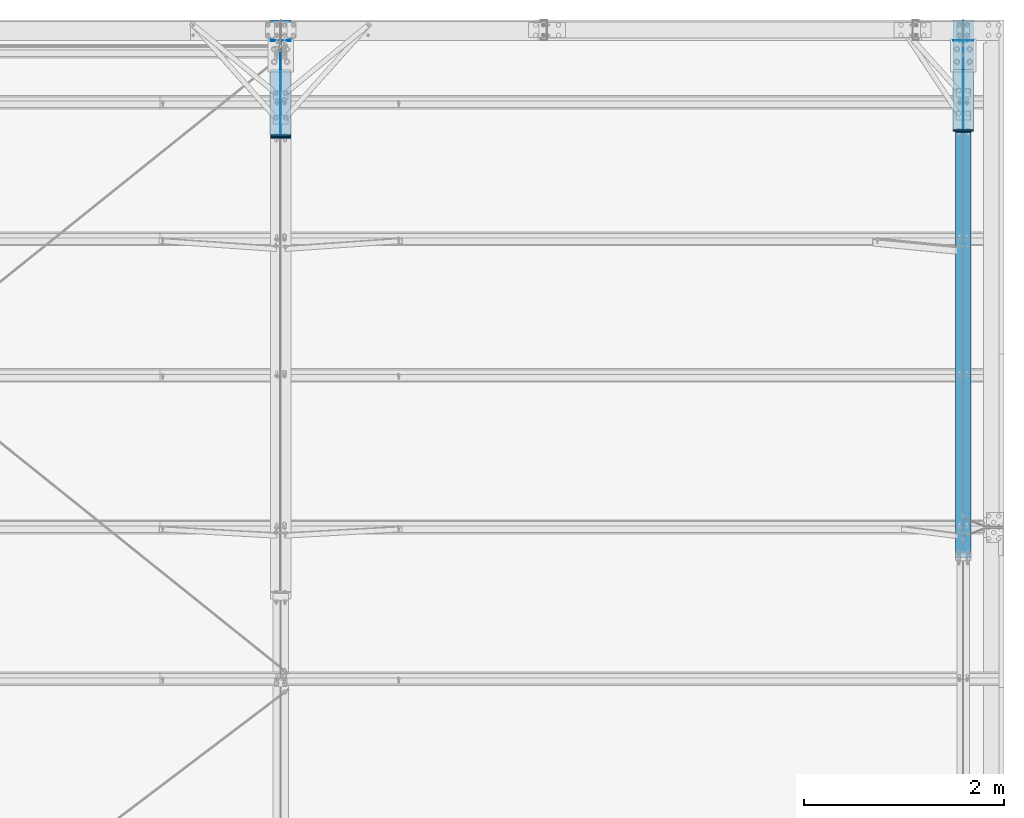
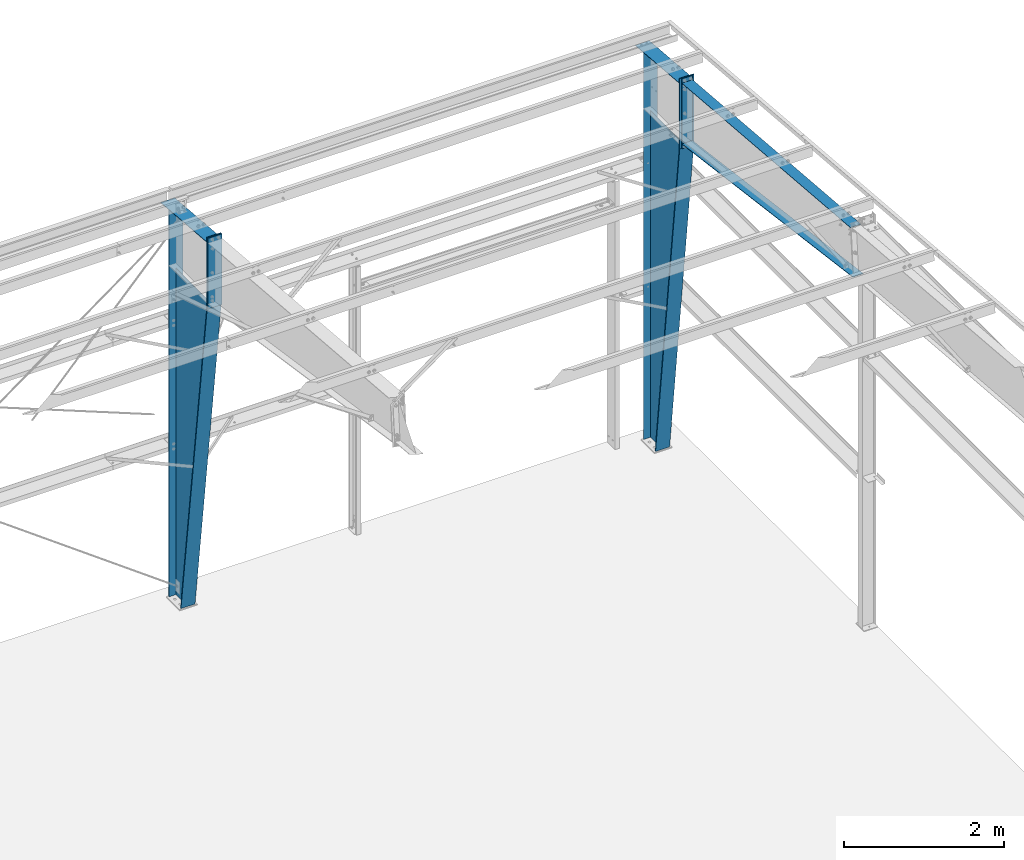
# One storey, part 60 of 185: 14 discrete accessories, 4 elements without a shape of their own.
"""IFC2X3 building model written with IfcOpenShell, lengths in millimetres."""

from ifc_helpers import new_model, si_unit, frame, origin_with_axes, origin_2d_with_axis, place, context, subcontext, project, spatial, rectangle, extrude, clip, halfspace, material, type_object, element, aggregate, save


model = new_model("IFC2X3")

# Units and contexts
model_context = context("Model", 3, precision=1e-05, world=origin_with_axes())
body_context = subcontext(model_context, "Body", "Model", "MODEL_VIEW")
ifc_project = project(units=[si_unit("LENGTHUNIT", "METRE", prefix="MILLI"), si_unit("AREAUNIT", "SQUARE_METRE"), si_unit("VOLUMEUNIT", "CUBIC_METRE"), si_unit("MASSUNIT", "GRAM", prefix="KILO"), si_unit("TIMEUNIT", "SECOND"), si_unit("PLANEANGLEUNIT", "RADIAN"), si_unit("SOLIDANGLEUNIT", "STERADIAN"), si_unit("THERMODYNAMICTEMPERATUREUNIT", "DEGREE_CELSIUS"), si_unit("LUMINOUSINTENSITYUNIT", "LUMEN")], contexts=[model_context])

# Site, building, storey
site_placement = place(None, origin_with_axes())
site = spatial("IfcSite", under=ifc_project, at=site_placement, Name="Undefined", CompositionType="ELEMENT")
building_placement = place(site_placement, origin_with_axes())
building = spatial("IfcBuilding", under=site, at=building_placement, Name="Undefined", CompositionType="ELEMENT")
storey_placement = place(building_placement, origin_with_axes())
storey = spatial("IfcBuildingStorey", under=building, at=storey_placement, Name="Undefined", CompositionType="ELEMENT", Elevation=0.0)

# Assembly, discrete accessory
assembly_1_placement = place(storey_placement, origin_with_axes())
assembly_1 = element("IfcElementAssembly", 1, at=assembly_1_placement, inside=storey, Name="Steel Assembly", AssemblyPlace="NOTDEFINED", PredefinedType="RIGID_FRAME")
ifc_material = material(Name="STEEL/55")
discrete_accessory_type_1 = type_object("IfcDiscreteAccessoryType", Name="Outside Flange")
discrete_accessory_1_placement = place(assembly_1_placement, frame((44551.6, 26679.882329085, 6332.58612997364), z_axis=(-1.0, 0.0, 0.0), x_axis=(0.0, 0.996545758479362, -0.0830454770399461)))
discrete_accessory_1 = element("IfcDiscreteAccessory", 2, at=discrete_accessory_1_placement, type_object=discrete_accessory_type_1, material=ifc_material, Name="Outside Flange", ObjectType="FL1/4\"X6\"", context=body_context, shape_type="SweptSolid", body=[
    extrude(rectangle(XDim=6.35, YDim=152.4, at=origin_2d_with_axis()), frame((4214.4617713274, 0.0, 0.0), z_axis=(-1.0, 0.0, 0.0), x_axis=(0.0, -1.0, 0.0)), (0.0, 0.0, 1.0), 4214.5),
])

assembly_2_placement = place(storey_placement, origin_with_axes())
assembly_2 = element("IfcElementAssembly", 3, at=assembly_2_placement, inside=storey, Name="Steel Assembly", AssemblyPlace="NOTDEFINED", PredefinedType="RIGID_FRAME")
discrete_accessory_2_placement = place(assembly_2_placement, frame((44551.6, 31797.625, 15.8749999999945), z_axis=(0.0, 0.0, 1.0), x_axis=(1.0, 0.0, 0.0)))
discrete_accessory_2 = element("IfcDiscreteAccessory", 4, at=discrete_accessory_2_placement, type_object=discrete_accessory_type_1, material=ifc_material, Name="Outside Flange", ObjectType="FL1/4\"X8\"", context=body_context, shape_type="SweptSolid", body=[
    extrude(rectangle(XDim=6.35, YDim=203.2, at=origin_2d_with_axis()), frame((0.0, 0.0, 5886.78198800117), z_axis=(0.0, 0.0, -1.0), x_axis=(0.0, 1.0, 0.0)), (0.0, 0.0, 1.0), 5886.8),
])

assembly_3_placement = place(storey_placement, origin_with_axes())
assembly_3 = element("IfcElementAssembly", 5, at=assembly_3_placement, inside=storey, Name="Steel Assembly", AssemblyPlace="NOTDEFINED", PredefinedType="RIGID_FRAME")
discrete_accessory_3_placement = place(assembly_3_placement, frame((37719.0, 31796.863, 15.8750000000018), z_axis=(0.0, 0.0, 1.0), x_axis=(1.0, 0.0, 0.0)))
discrete_accessory_3 = element("IfcDiscreteAccessory", 6, at=discrete_accessory_3_placement, type_object=discrete_accessory_type_1, material=ifc_material, Name="Outside Flange", ObjectType="FL5/16\"X8\"", context=body_context, shape_type="SweptSolid", body=[
    extrude(rectangle(XDim=7.874, YDim=203.2, at=origin_2d_with_axis()), frame((0.0, 0.0, 5885.17624136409), z_axis=(0.0, 0.0, -1.0), x_axis=(0.0, 1.0, 0.0)), (0.0, 0.0, 1.0), 5885.2),
])

# Discrete accessory
discrete_accessory_type_2 = type_object("IfcDiscreteAccessoryType", Name="Inside Flange")
discrete_accessory_4_placement = place(assembly_1_placement, frame((44551.6000000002, 30879.5387973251, 5058.51776228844), z_axis=(1.0, 0.0, 0.0), x_axis=(0.0, -0.99153420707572, 0.129845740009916)))
discrete_accessory_4 = element("IfcDiscreteAccessory", 7, at=discrete_accessory_4_placement, type_object=discrete_accessory_type_2, material=ifc_material, Name="Inside Flange", ObjectType="FL5/16\"X6\"", context=body_context, shape_type="SweptSolid", body=[
    extrude(rectangle(XDim=7.874, YDim=152.4, at=origin_2d_with_axis()), frame((4295.52831753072, 1.81898940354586e-12, 0.0), z_axis=(-1.0, 0.0, 0.0), x_axis=(0.0, -1.0, 0.0)), (0.0, 0.0, 1.0), 4295.5),
])

discrete_accessory_5_placement = place(assembly_2_placement, frame((44551.6, 31502.2468795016, 16.6400266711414), z_axis=(1.0, 0.0, 0.0), x_axis=(0.0, -0.120476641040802, 0.992716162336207)))
discrete_accessory_5 = element("IfcDiscreteAccessory", 8, at=discrete_accessory_5_placement, type_object=discrete_accessory_type_2, material=ifc_material, Name="Inside Flange", ObjectType="FL1/2\"X8\"", context=body_context, shape_type="SweptSolid", body=[
    extrude(rectangle(XDim=12.7, YDim=203.2, at=origin_2d_with_axis()), frame((5005.72696797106, 0.0, 0.0), z_axis=(-1.0, 0.0, 0.0), x_axis=(0.0, -1.0, 0.0)), (0.0, 0.0, 1.0), 5005.7),
])

discrete_accessory_6_placement = place(assembly_3_placement, frame((37719.0, 31502.1855049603, 16.7056326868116), z_axis=(1.0, 0.0, 0.0), x_axis=(0.0, -0.130808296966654, 0.991407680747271)))
discrete_accessory_6 = element("IfcDiscreteAccessory", 9, at=discrete_accessory_6_placement, type_object=discrete_accessory_type_2, material=ifc_material, Name="Inside Flange", ObjectType="FL1/2\"X8\"", context=body_context, shape_type="SweptSolid", body=[
    extrude(rectangle(XDim=12.7, YDim=203.2, at=origin_2d_with_axis()), frame((5010.04109205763, -1.39056574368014e-13, 0.0), z_axis=(-1.0, 0.0, 0.0), x_axis=(0.0, -1.0, 0.0)), (0.0, 0.0, 1.0), 5010.0),
])

discrete_accessory_type_3 = type_object("IfcDiscreteAccessoryType", Name="Web")
discrete_accessory_7_placement = place(assembly_2_placement, frame((44551.6, 31349.95, 15.8749999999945), z_axis=(0.0, 0.0, 1.0), x_axis=(0.0, 1.0, 0.0)))
discrete_accessory_7 = element("IfcDiscreteAccessory", 10, at=discrete_accessory_7_placement, type_object=discrete_accessory_type_3, material=ifc_material, Name="Web", ObjectType="PL3/16\"X35\"", context=body_context, shape_type="Clipping", body=[
    clip(extrude(rectangle(XDim=4.7625, YDim=889.0, at=origin_2d_with_axis()), frame((0.0, 0.0, 4970.20731443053), z_axis=(0.0, 0.0, -1.0), x_axis=(0.0, 1.0, 0.0)), (0.0, 0.0, 1.0), 4970.2), halfspace(frame((444.5, 2.38124999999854, -2354.25382140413), z_axis=(-0.992716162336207, 0.0, -0.120476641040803), x_axis=(-0.120476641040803, 0.0, 0.992716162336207)), False)),
])

discrete_accessory_8_placement = place(assembly_3_placement, frame((37719.0, 31323.026, 15.8750000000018), z_axis=(0.0, 0.0, 1.0), x_axis=(0.0, 1.0, 0.0)))
discrete_accessory_8 = element("IfcDiscreteAccessory", 11, at=discrete_accessory_8_placement, type_object=discrete_accessory_type_3, material=ifc_material, Name="Web", ObjectType="PL3/16\"X37\"", context=body_context, shape_type="Clipping", body=[
    clip(extrude(rectangle(XDim=4.7625, YDim=939.8, at=origin_2d_with_axis()), frame((0.0, 0.0, 4968.65448446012), z_axis=(0.0, 0.0, -1.0), x_axis=(0.0, 1.0, 0.0)), (0.0, 0.0, 1.0), 4968.7), halfspace(frame((-469.900000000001, -2.38124999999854, 4968.65448446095), z_axis=(-0.991407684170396, 0.0, -0.130808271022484), x_axis=(0.130808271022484, 0.0, -0.991407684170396)), False)),
])

discrete_accessory_type_4 = type_object("IfcDiscreteAccessoryType", Name="Rafter Haunch Plate")
discrete_accessory_9_placement = place(assembly_1_placement, frame((44551.6, 30886.4, 6052.88231192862), z_axis=(-1.0, 0.0, 0.0), x_axis=(0.0, 0.0, -1.0)))
discrete_accessory_9 = element("IfcDiscreteAccessory", 12, at=discrete_accessory_9_placement, type_object=discrete_accessory_type_4, material=ifc_material, Name="Rafter Haunch Plate", ObjectType="FL1/2\"X6\"", context=body_context, shape_type="SweptSolid", body=[
    extrude(rectangle(XDim=12.7, YDim=152.4, at=origin_2d_with_axis()), frame((1066.80000250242, 0.0, 0.0), z_axis=(-1.0, 0.0, 0.0), x_axis=(0.0, -1.0, 0.0)), (0.0, 0.0, 1.0), 1066.8),
])

aggregate(assembly_1, [discrete_accessory_1, discrete_accessory_4, discrete_accessory_9])

# Assembly, discrete accessory
assembly_4_placement = place(storey_placement, origin_with_axes())
assembly_4 = element("IfcElementAssembly", 13, at=assembly_4_placement, inside=storey, Name="Steel Assembly", AssemblyPlace="NOTDEFINED", PredefinedType="RIGID_FRAME")
discrete_accessory_10_placement = place(assembly_4_placement, frame((37719.0, 30829.377, 6060.85448861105), z_axis=(-1.0, 0.0, 0.0), x_axis=(0.0, 0.0, -1.0)))
discrete_accessory_10 = element("IfcDiscreteAccessory", 14, at=discrete_accessory_10_placement, type_object=discrete_accessory_type_4, material=ifc_material, Name="Rafter Haunch Plate", ObjectType="PL5/8\"X8\"", context=body_context, shape_type="SweptSolid", body=[
    extrude(rectangle(XDim=15.748, YDim=203.2, at=origin_2d_with_axis()), frame((1076.32500219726, 0.0, 0.0), z_axis=(-1.0, 0.0, 0.0), x_axis=(0.0, -1.0, 0.0)), (0.0, 0.0, 1.0), 1076.3),
])
aggregate(assembly_4, [discrete_accessory_10])

# Discrete accessory
discrete_accessory_type_5 = type_object("IfcDiscreteAccessoryType", Name="Column Connection Pla")
discrete_accessory_11_placement = place(assembly_2_placement, frame((44551.6, 30899.1, 6052.88231443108), z_axis=(-1.0, 0.0, 0.0), x_axis=(0.0, 0.0, -1.0)))
discrete_accessory_11 = element("IfcDiscreteAccessory", 15, at=discrete_accessory_11_placement, type_object=discrete_accessory_type_5, material=ifc_material, Name="Column Connection Pla", ObjectType="FL1/2\"X8\"", context=body_context, shape_type="SweptSolid", body=[
    extrude(rectangle(XDim=12.7, YDim=203.2, at=origin_2d_with_axis()), frame((1066.80000250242, 0.0, 0.0), z_axis=(-1.0, 0.0, 0.0), x_axis=(0.0, -1.0, 0.0)), (0.0, 0.0, 1.0), 1066.8),
])

discrete_accessory_12_placement = place(assembly_3_placement, frame((37719.0, 30845.1885, 6060.85448555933), z_axis=(-1.0, 0.0, 0.0), x_axis=(0.0, 0.0, -1.0)))
discrete_accessory_12 = element("IfcDiscreteAccessory", 16, at=discrete_accessory_12_placement, type_object=discrete_accessory_type_5, material=ifc_material, Name="Column Connection Pla", ObjectType="FL5/8\"X8\"", context=body_context, shape_type="SweptSolid", body=[
    extrude(rectangle(XDim=15.875, YDim=203.2, at=origin_2d_with_axis()), frame((1076.32500219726, 0.0, 0.0), z_axis=(-1.0, 0.0, 0.0), x_axis=(0.0, -1.0, 0.0)), (0.0, 0.0, 1.0), 1076.3),
])

discrete_accessory_type_6 = type_object("IfcDiscreteAccessoryType", Name="Cap Plate")
discrete_accessory_13_placement = place(assembly_2_placement, frame((44551.6, 32003.7363306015, 5888.93163235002), z_axis=(1.0, 0.0, 0.0), x_axis=(0.0, -0.996545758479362, 0.0830454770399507)))
discrete_accessory_13 = element("IfcDiscreteAccessory", 17, at=discrete_accessory_13_placement, type_object=discrete_accessory_type_6, material=ifc_material, Name="Cap Plate", ObjectType="FL1/4\"X8\"", context=body_context, shape_type="SweptSolid", body=[
    extrude(rectangle(XDim=6.35, YDim=203.2, at=origin_2d_with_axis()), frame((1101.82864370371, -1.52909441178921e-14, 0.0), z_axis=(-1.0, 0.0, 0.0), x_axis=(0.0, -1.0, 0.0)), (0.0, 0.0, 1.0), 1101.8),
])

aggregate(assembly_2, [discrete_accessory_11, discrete_accessory_13, discrete_accessory_2, discrete_accessory_5, discrete_accessory_7])

discrete_accessory_14_placement = place(assembly_3_placement, frame((37719.0, 32003.669885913, 5888.13429608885), z_axis=(1.0, 0.0, 0.0), x_axis=(0.0, -0.996545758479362, 0.0830454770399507)))
discrete_accessory_14 = element("IfcDiscreteAccessory", 18, at=discrete_accessory_14_placement, type_object=discrete_accessory_type_6, material=ifc_material, Name="Cap Plate", ObjectType="FL5/16\"X8\"", context=body_context, shape_type="SweptSolid", body=[
    extrude(rectangle(XDim=7.9502, YDim=203.2, at=origin_2d_with_axis()), frame((1154.20065993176, 0.0, 0.0), z_axis=(-1.0, 0.0, 0.0), x_axis=(0.0, -1.0, 0.0)), (0.0, 0.0, 1.0), 1154.2),
])

aggregate(assembly_3, [discrete_accessory_12, discrete_accessory_14, discrete_accessory_3, discrete_accessory_6, discrete_accessory_8])

save(model, "model.ifc")
